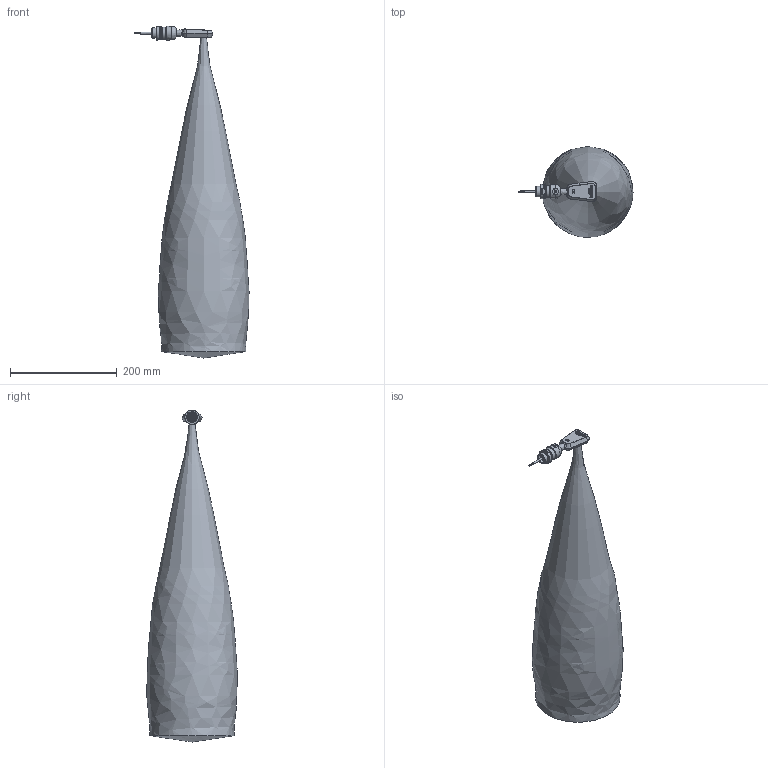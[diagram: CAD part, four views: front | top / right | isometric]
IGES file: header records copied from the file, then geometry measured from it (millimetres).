
Global section: file name: pms-35_yy_A1_; native system: Autodesk Inventor 2017; preprocessor: unknown; author: Oliver Liedtke; date: 20171102.151934; units: millimetre
Bounding box: 213.77 x 170.09 x 621.81 mm (x, y, z)
Volume: 8448734.9 mm3; surface area: 321944.2 mm2
Topology: 5 solids, 5 shells, 769 faces, 2090 edges, 1401 vertices
Faces by surface type: bspline 769
